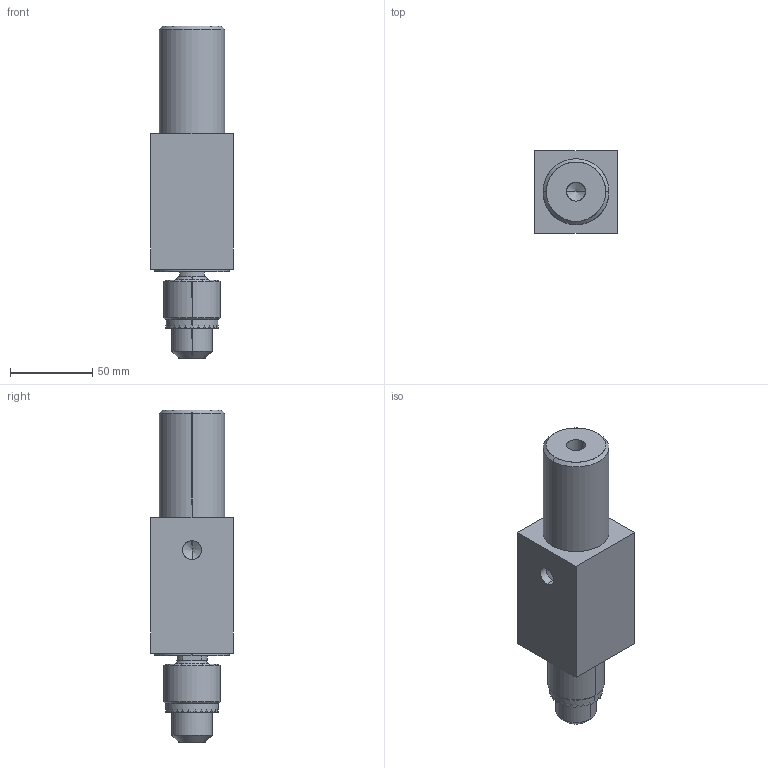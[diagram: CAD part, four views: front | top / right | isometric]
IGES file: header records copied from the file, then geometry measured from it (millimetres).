
Start section: SolidWorks IGES file using analytic representation for surfaces
Bounding box: 50 x 50 x 201.4 mm (x, y, z)
Surface area: 40143 mm2 (no closed solid volume)
Topology: 0 solids, 0 shells, 177 faces, 1761 edges, 1747 vertices
Faces by surface type: bspline 121, revolution 56
